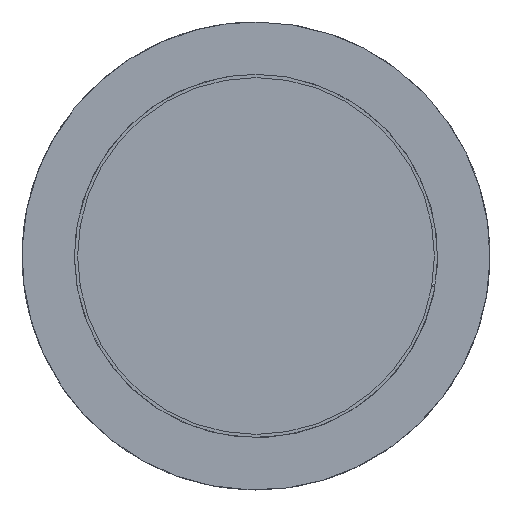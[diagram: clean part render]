
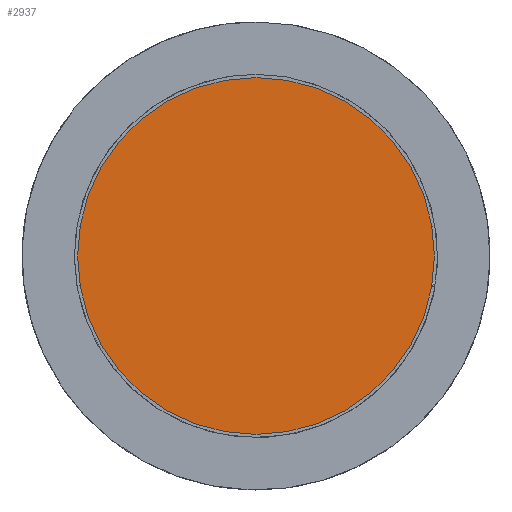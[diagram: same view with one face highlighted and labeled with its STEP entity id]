
A CAD part, front view. The second image highlights one B-rep face of the part: STEP entity #2937.
In plain terms, the highlighted planar face has unit normal (0, -1, 0).
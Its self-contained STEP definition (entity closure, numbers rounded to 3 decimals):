
#2937=ADVANCED_FACE('',(#10260),#10262,.T.);
#10260=FACE_BOUND('',#10261,.T.);
#10261=EDGE_LOOP('',(#17075));
#10262=PLANE('',#10263);
#10263=AXIS2_PLACEMENT_3D('',#10264,#10265,#10266);
#10264=CARTESIAN_POINT('',(-130.086,-678.479,281.309));
#10265=DIRECTION('',(0.,-1.,0.));
#10266=DIRECTION('',(0.,0.,-1.));
#17075=ORIENTED_EDGE('',*,*,#21266,.F.);
#21266=EDGE_CURVE('',#24954,#24954,#24955,.T.);
#24954=VERTEX_POINT('',#32842);
#24955=CIRCLE('',#32843,83.5);
#32842=CARTESIAN_POINT('',(-130.086,-678.479,114.309));
#32843=AXIS2_PLACEMENT_3D('',#32844,#32845,#32846);
#32844=CARTESIAN_POINT('',(-130.086,-678.479,197.809));
#32845=DIRECTION('',(0.,1.,0.));
#32846=DIRECTION('',(0.,0.,1.));
